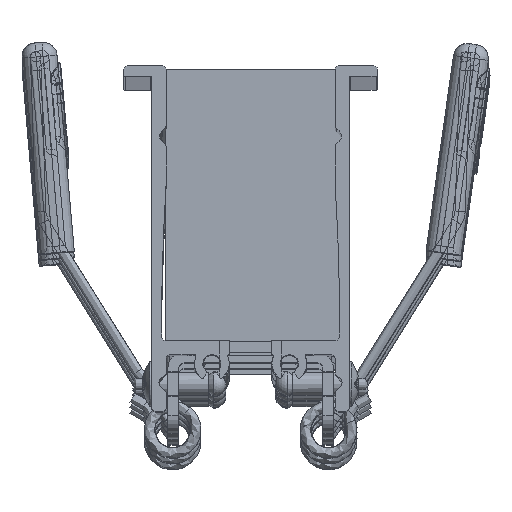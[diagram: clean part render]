
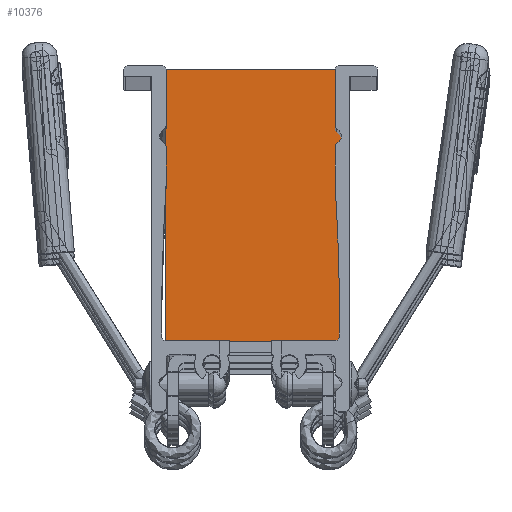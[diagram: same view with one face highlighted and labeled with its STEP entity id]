
A CAD part, top view. The second image highlights one B-rep face of the part: STEP entity #10376.
In plain terms, the highlighted planar face has unit normal (0, 0, 1) as drawn and (0, -1, 0) by its records, which use the part's own axes.
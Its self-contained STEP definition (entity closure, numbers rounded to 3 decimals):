
#424=PLANE('',#11615);
#1329=LINE('',#20043,#2050);
#1337=LINE('',#20059,#2058);
#1338=LINE('',#20061,#2059);
#1339=LINE('',#20062,#2060);
#2050=VECTOR('',#14651,1000.);
#2058=VECTOR('',#14663,1000.);
#2059=VECTOR('',#14666,1000.);
#2060=VECTOR('',#14667,1000.);
#5079=ORIENTED_EDGE('',*,*,#6604,.F.);
#5080=ORIENTED_EDGE('',*,*,#6603,.F.);
#5081=ORIENTED_EDGE('',*,*,#6605,.T.);
#5082=ORIENTED_EDGE('',*,*,#6595,.T.);
#6595=EDGE_CURVE('',#7577,#7575,#1329,.T.);
#6603=EDGE_CURVE('',#7582,#7581,#1337,.T.);
#6604=EDGE_CURVE('',#7581,#7575,#1338,.T.);
#6605=EDGE_CURVE('',#7582,#7577,#1339,.T.);
#7575=VERTEX_POINT('',#20041);
#7577=VERTEX_POINT('',#20044);
#7581=VERTEX_POINT('',#20056);
#7582=VERTEX_POINT('',#20058);
#8812=EDGE_LOOP('',(#5079,#5080,#5081,#5082));
#9474=FACE_BOUND('',#8812,.T.);
#10376=ADVANCED_FACE('',(#9474),#424,.T.);
#11615=AXIS2_PLACEMENT_3D('',#20060,#14664,#14665);
#14651=DIRECTION('',(0.,0.,-1.));
#14663=DIRECTION('',(0.,0.,-1.));
#14664=DIRECTION('',(0.,-1.,0.));
#14665=DIRECTION('',(0.,0.,-1.));
#14666=DIRECTION('',(-1.,0.,0.));
#14667=DIRECTION('',(-1.,0.,0.));
#20041=CARTESIAN_POINT('',(-12.5,-726.,0.));
#20043=CARTESIAN_POINT('',(-12.5,-726.,39.));
#20044=CARTESIAN_POINT('',(-12.5,-726.,39.));
#20056=CARTESIAN_POINT('',(12.5,-726.,0.));
#20058=CARTESIAN_POINT('',(12.5,-726.,39.));
#20059=CARTESIAN_POINT('',(12.5,-726.,39.));
#20060=CARTESIAN_POINT('',(12.5,-726.,39.));
#20061=CARTESIAN_POINT('',(12.5,-726.,0.));
#20062=CARTESIAN_POINT('',(12.5,-726.,39.));
